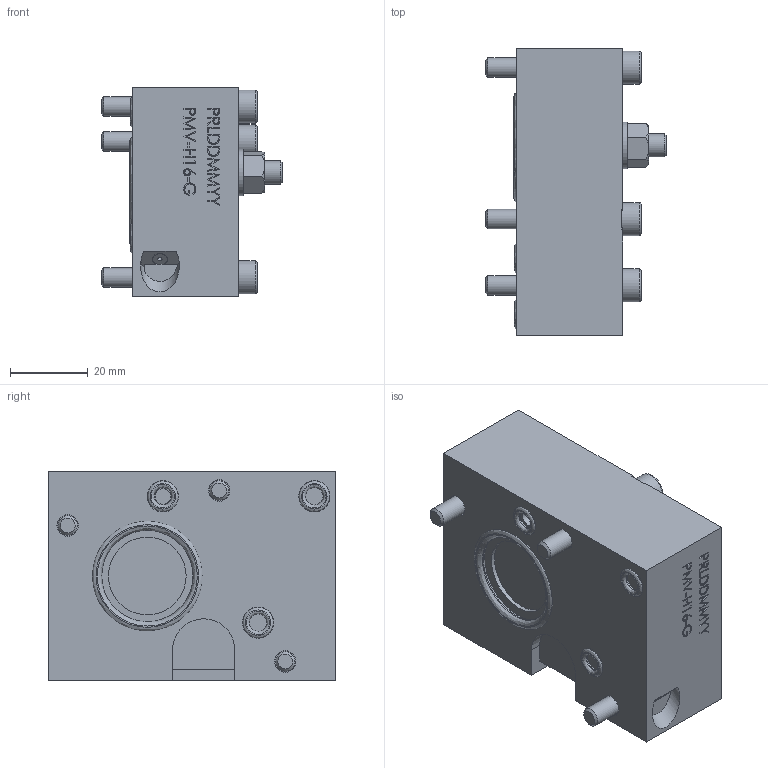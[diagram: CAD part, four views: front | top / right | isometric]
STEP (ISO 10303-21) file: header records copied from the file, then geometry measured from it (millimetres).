
FILE_DESCRIPTION (( 'STEP AP214' ), '1' );
FILE_NAME ('0301587.STEP', '2022-06-22T13:29:04', ( '' ), ( '' ), 'SwSTEP 2.0', 'SolidWorks 2020', '' );
FILE_SCHEMA (( 'AUTOMOTIVE_DESIGN' ));
Length unit declared in the file: millimetre
Products named in the file (9): 0283782_008; 0074748_246.2136; 0074669_079.3135; 0290158_010; 0301587; 0283782_001; 0287312_002; 0290158_001; 0073842_153.2301
Assembly tree (12 placements, depth 2):
  0301587
    0287312_002
    0073842_153.2301
    0074748_246.2136  x3
    0074669_079.3135
    0283782_001
    0290158_001  x3
    0290158_010
    0283782_008
Bounding box: 46.5 x 74 x 54 mm (x, y, z)
Volume: 109681.2 mm3; surface area: 21818.9 mm2
Topology: 14 solids, 14 shells, 508 faces, 1194 edges, 766 vertices
Faces by surface type: plane 302, bspline 81, cone 66, cylinder 53, torus 6
Full cylindrical faces by diameter (mm): 0.6 x2, 1.1 x2, 3.5 x2, 3.767 x2, 4 x2, 4.47 x3, 5 x5, 5.5 x3, 6 x1, 7.8 x3, 8.03 x3, 8.5 x3, 11.445 x2, 12 x1, 14 x1, 20 x1, 23.47 x1, 24 x2, 28.15 x1, 28.71 x1
Entity records: 16754 total; most frequent: CARTESIAN_POINT 6646, ORIENTED_EDGE 1940, DIRECTION 1759, EDGE_CURVE 970, VERTEX_POINT 685, VECTOR 639, LINE 639, EDGE_LOOP 611
